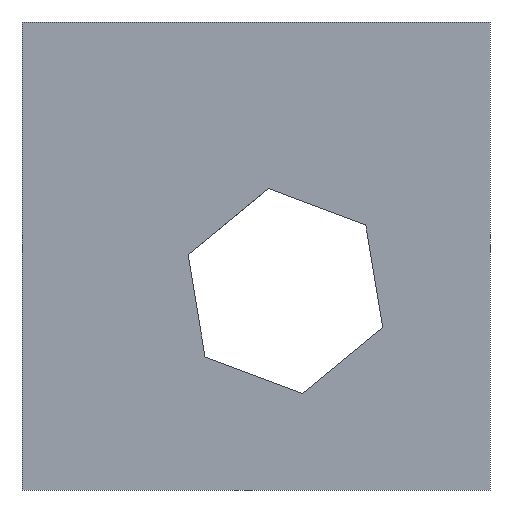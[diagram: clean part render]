
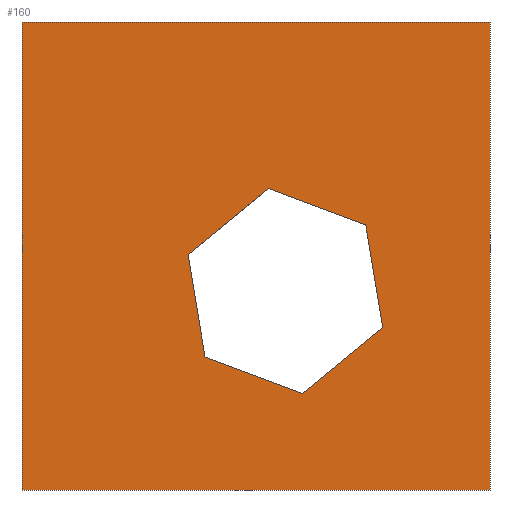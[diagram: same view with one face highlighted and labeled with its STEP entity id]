
A CAD part, front view. The second image highlights one B-rep face of the part: STEP entity #160.
In plain terms, the highlighted planar face has unit normal (0, -1, 0).
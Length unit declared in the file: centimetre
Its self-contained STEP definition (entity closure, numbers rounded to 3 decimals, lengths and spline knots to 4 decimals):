
#6 = EDGE_LOOP ( 'NONE', ( #676, #90, #627, #139, #553, #591 ) ) ;
#26 = EDGE_CURVE ( 'NONE', #68, #99, #549, .T. ) ;
#28 = VERTEX_POINT ( 'NONE', #187 ) ;
#40 = VECTOR ( 'NONE', #774, 100. ) ;
#48 = CARTESIAN_POINT ( 'NONE',  ( 1000., 0., 1000. ) ) ;
#68 = VERTEX_POINT ( 'NONE', #757 ) ;
#90 = ORIENTED_EDGE ( 'NONE', *, *, #484, .F. ) ;
#95 = LINE ( 'NONE', #720, #40 ) ;
#97 = CARTESIAN_POINT ( 'NONE',  ( 734.4864, 0., 566.2877 ) ) ;
#98 = DIRECTION ( 'NONE',  ( 0., 1., 0. ) ) ;
#99 = VERTEX_POINT ( 'NONE', #321 ) ;
#106 = CARTESIAN_POINT ( 'NONE',  ( 1000., 0., 0. ) ) ;
#116 = CARTESIAN_POINT ( 'NONE',  ( 1000., 0., 1000. ) ) ;
#127 = ORIENTED_EDGE ( 'NONE', *, *, #655, .T. ) ;
#132 = DIRECTION ( 'NONE',  ( 1., 0., 0. ) ) ;
#139 = ORIENTED_EDGE ( 'NONE', *, *, #287, .F. ) ;
#160 = ADVANCED_FACE ( 'NONE', ( #707, #325 ), #659, .F. ) ;
#187 = CARTESIAN_POINT ( 'NONE',  ( 599.4157, 0., 205.9503 ) ) ;
#224 = ORIENTED_EDGE ( 'NONE', *, *, #449, .F. ) ;
#225 = CARTESIAN_POINT ( 'NONE',  ( 526.4455, 0., 644.2708 ) ) ;
#234 = CARTESIAN_POINT ( 'NONE',  ( 734.4864, 0., 566.2877 ) ) ;
#247 = CARTESIAN_POINT ( 'NONE',  ( 770.9715, 0., 347.1274 ) ) ;
#257 = CARTESIAN_POINT ( 'NONE',  ( 599.4157, 0., 205.9503 ) ) ;
#264 = VERTEX_POINT ( 'NONE', #234 ) ;
#266 = CARTESIAN_POINT ( 'NONE',  ( 0., 0., 1000. ) ) ;
#267 = VERTEX_POINT ( 'NONE', #348 ) ;
#280 = VECTOR ( 'NONE', #605, 100. ) ;
#287 = EDGE_CURVE ( 'NONE', #334, #28, #367, .T. ) ;
#295 = DIRECTION ( 'NONE',  ( -0.772, 0., -0.635 ) ) ;
#301 = ORIENTED_EDGE ( 'NONE', *, *, #340, .F. ) ;
#317 = VECTOR ( 'NONE', #618, 100. ) ;
#321 = CARTESIAN_POINT ( 'NONE',  ( 0., 0., 0. ) ) ;
#325 = FACE_OUTER_BOUND ( 'NONE', #612, .T. ) ;
#328 = VECTOR ( 'NONE', #740, 100. ) ;
#334 = VERTEX_POINT ( 'NONE', #801 ) ;
#340 = EDGE_CURVE ( 'NONE', #726, #668, #673, .T. ) ;
#348 = CARTESIAN_POINT ( 'NONE',  ( 526.4455, 0., 644.2708 ) ) ;
#351 = CARTESIAN_POINT ( 'NONE',  ( 391.3748, 0., 283.9334 ) ) ;
#362 = VERTEX_POINT ( 'NONE', #575 ) ;
#367 = LINE ( 'NONE', #351, #328 ) ;
#388 = LINE ( 'NONE', #247, #710 ) ;
#393 = DIRECTION ( 'NONE',  ( -0.936, 0., 0.351 ) ) ;
#402 = LINE ( 'NONE', #97, #571 ) ;
#411 = LINE ( 'NONE', #473, #280 ) ;
#436 = CARTESIAN_POINT ( 'NONE',  ( 0., 0., 1000. ) ) ;
#444 = DIRECTION ( 'NONE',  ( 0., 0., 1. ) ) ;
#449 = EDGE_CURVE ( 'NONE', #68, #726, #626, .T. ) ;
#460 = EDGE_CURVE ( 'NONE', #28, #758, #698, .T. ) ;
#471 = DIRECTION ( 'NONE',  ( 0., 0., -1. ) ) ;
#473 = CARTESIAN_POINT ( 'NONE',  ( 354.8897, 0., 503.0937 ) ) ;
#484 = EDGE_CURVE ( 'NONE', #758, #264, #388, .T. ) ;
#503 = ORIENTED_EDGE ( 'NONE', *, *, #26, .T. ) ;
#532 = CARTESIAN_POINT ( 'NONE',  ( 770.9715, 0., 347.1274 ) ) ;
#533 = VECTOR ( 'NONE', #631, 100. ) ;
#540 = VECTOR ( 'NONE', #132, 100. ) ;
#549 = LINE ( 'NONE', #436, #317 ) ;
#553 = ORIENTED_EDGE ( 'NONE', *, *, #716, .F. ) ;
#560 = DIRECTION ( 'NONE',  ( -0.164, 0., 0.986 ) ) ;
#561 = VECTOR ( 'NONE', #471, 100. ) ;
#571 = VECTOR ( 'NONE', #393, 100. ) ;
#574 = EDGE_CURVE ( 'NONE', #264, #267, #402, .T. ) ;
#575 = CARTESIAN_POINT ( 'NONE',  ( 354.8897, 0., 503.0937 ) ) ;
#591 = ORIENTED_EDGE ( 'NONE', *, *, #706, .F. ) ;
#605 = DIRECTION ( 'NONE',  ( 0.164, 0., -0.986 ) ) ;
#612 = EDGE_LOOP ( 'NONE', ( #127, #301, #224, #503 ) ) ;
#618 = DIRECTION ( 'NONE',  ( 0., 0., -1. ) ) ;
#622 = VECTOR ( 'NONE', #295, 100. ) ;
#626 = LINE ( 'NONE', #764, #540 ) ;
#627 = ORIENTED_EDGE ( 'NONE', *, *, #460, .F. ) ;
#631 = DIRECTION ( 'NONE',  ( 0.772, 0., 0.635 ) ) ;
#655 = EDGE_CURVE ( 'NONE', #99, #668, #95, .T. ) ;
#659 = PLANE ( 'NONE',  #712 ) ;
#668 = VERTEX_POINT ( 'NONE', #106 ) ;
#673 = LINE ( 'NONE', #116, #561 ) ;
#676 = ORIENTED_EDGE ( 'NONE', *, *, #574, .F. ) ;
#698 = LINE ( 'NONE', #257, #533 ) ;
#706 = EDGE_CURVE ( 'NONE', #267, #362, #791, .T. ) ;
#707 = FACE_BOUND ( 'NONE', #6, .T. ) ;
#710 = VECTOR ( 'NONE', #560, 100. ) ;
#712 = AXIS2_PLACEMENT_3D ( 'NONE', #266, #98, #444 ) ;
#716 = EDGE_CURVE ( 'NONE', #362, #334, #411, .T. ) ;
#720 = CARTESIAN_POINT ( 'NONE',  ( 0., 0., 0. ) ) ;
#726 = VERTEX_POINT ( 'NONE', #48 ) ;
#740 = DIRECTION ( 'NONE',  ( 0.936, 0., -0.351 ) ) ;
#757 = CARTESIAN_POINT ( 'NONE',  ( 0., 0., 1000. ) ) ;
#758 = VERTEX_POINT ( 'NONE', #532 ) ;
#764 = CARTESIAN_POINT ( 'NONE',  ( 0., 0., 1000. ) ) ;
#774 = DIRECTION ( 'NONE',  ( 1., 0., 0. ) ) ;
#791 = LINE ( 'NONE', #225, #622 ) ;
#801 = CARTESIAN_POINT ( 'NONE',  ( 391.3748, 0., 283.9334 ) ) ;
